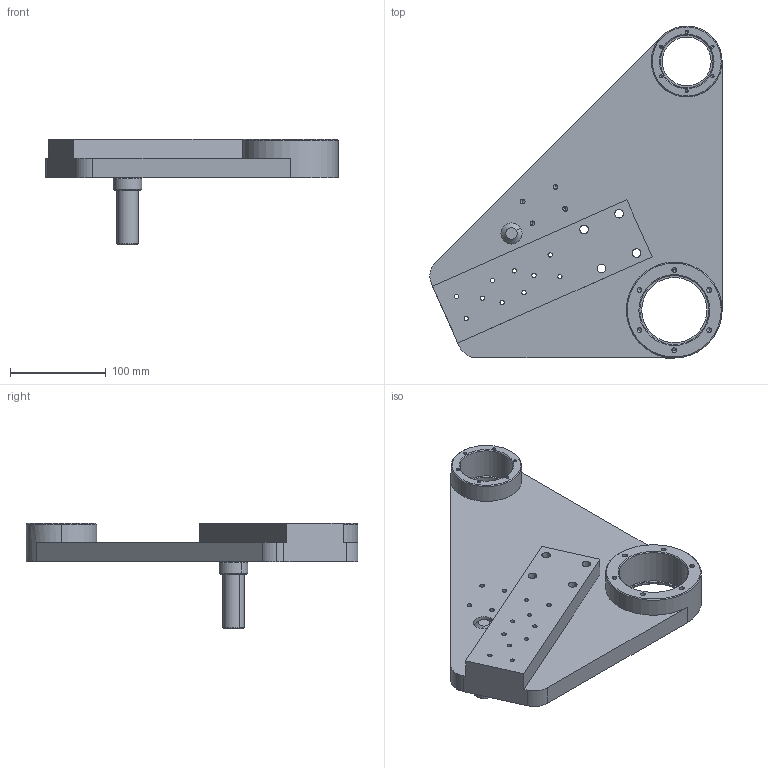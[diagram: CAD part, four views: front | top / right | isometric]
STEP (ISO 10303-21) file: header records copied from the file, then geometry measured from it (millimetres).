
FILE_DESCRIPTION (( 'STEP AP203' ), '1' );
FILE_NAME ('YWSD-2026-03-01-05-01 ｴ･ｹﾌｶｨｰ袮鮗ｸ.STEP', '2026-07-24T07:35:17', ( 'Windows ﾓﾃｻｧ' ), ( '' ), 'SwSTEP 2.0', 'SolidWorks 2024', '' );
FILE_SCHEMA (( 'CONFIG_CONTROL_DESIGN' ));
Length unit declared in the file: millimetre
Products named in the file (3): YWSD-2026-03-01-05-01 打磨固定板组焊; YWSD-2026-03-01-05-01=001 打磨机构固定板; YWSD-2026-03-01-05-01=002 旋转销轴
Assembly tree (2 placements, depth 2):
  YWSD-2026-03-01-05-01 打磨固定板组焊
    YWSD-2026-03-01-05-01=001 打磨机构固定板
    YWSD-2026-03-01-05-01=002 旋转销轴
Bounding box: 305.26 x 346.67 x 110 mm (x, y, z)
Volume: 1703097.7 mm3; surface area: 214399.6 mm2
Topology: 2 solids, 2 shells, 197 faces, 469 edges, 278 vertices
Faces by surface type: cylinder 111, cone 54, plane 32
Entity records: 5890 total; most frequent: DIRECTION 1087, CARTESIAN_POINT 917, ORIENTED_EDGE 874, AXIS2_PLACEMENT_3D 448, EDGE_CURVE 437, VERTEX_POINT 278, EDGE_LOOP 265, CIRCLE 246
